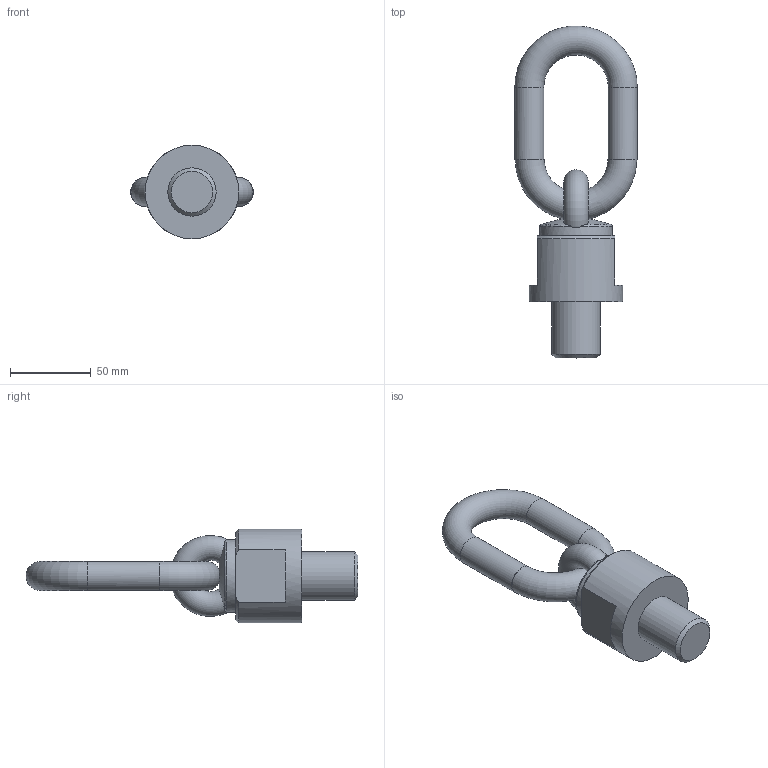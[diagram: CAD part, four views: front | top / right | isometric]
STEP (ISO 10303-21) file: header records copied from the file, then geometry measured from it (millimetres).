
FILE_DESCRIPTION( ( 'STEP AP203' ), '1' );
FILE_NAME( 'p:/temp/worker_18/temp/app_50_0201906261455114780683610e898ce_000000_00_00_000000/format_2/C800X0403035.stp', '2019-06-26T12:55:14', ( '' ), ( '' ), ' ', 'PARTsolutions', ' ' );
FILE_SCHEMA( ( 'CONFIG_CONTROL_DESIGN' ) );
Length unit declared in the file: millimetre
Products named in the file (1): _C800X0403035
Bounding box: 76 x 205.97 x 58 mm (x, y, z)
Volume: 220913 mm3; surface area: 34343.9 mm2
Topology: 1 solids, 1 shells, 27 faces, 67 edges, 42 vertices
Faces by surface type: plane 12, torus 5, cylinder 5, cone 5
Full cylindrical faces by diameter (mm): 18 x2, 30 x1, 45.12 x1, 58 x1
Entity records: 1118 total; most frequent: CARTESIAN_POINT 499, DIRECTION 118, ORIENTED_EDGE 106, AXIS2_PLACEMENT_3D 55, EDGE_CURVE 53, EDGE_LOOP 42, VERTEX_POINT 38, FACE_OUTER_BOUND 35
